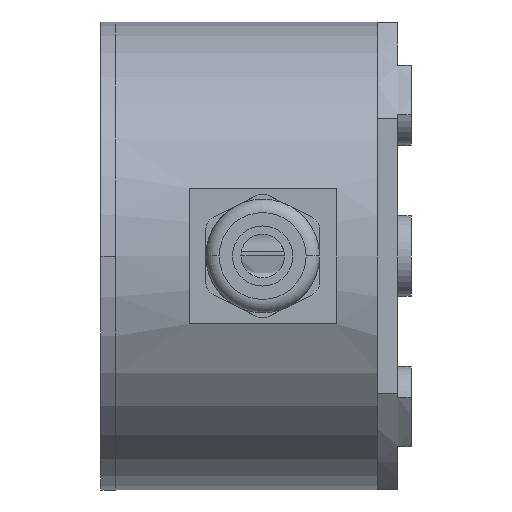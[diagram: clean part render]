
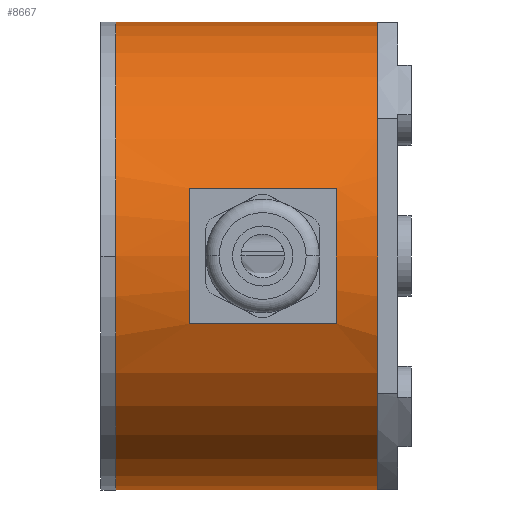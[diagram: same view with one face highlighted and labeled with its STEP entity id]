
A CAD part, left-side view. The second image highlights one B-rep face of the part: STEP entity #8667.
In plain terms, the highlighted cylindrical face has radius 35 mm (diameter 70 mm), a partial arc.
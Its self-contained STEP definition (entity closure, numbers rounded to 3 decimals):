
#6519 = DIRECTION ( 'NONE',  ( 0., -1., 0. ) ) ;
#6520 = VECTOR ( 'NONE', #6519, 1000. ) ;
#6521 = CARTESIAN_POINT ( 'NONE',  ( 39.5, 42.2, 0. ) ) ;
#6522 = LINE ( 'NONE', #6521, #6520 ) ;
#6543 = DIRECTION ( 'NONE',  ( 0., 0., 1. ) ) ;
#6544 = DIRECTION ( 'NONE',  ( 0., 1., 0. ) ) ;
#6545 = CARTESIAN_POINT ( 'NONE',  ( 39.5, 3., -35. ) ) ;
#6546 = AXIS2_PLACEMENT_3D ( 'NONE', #6545, #6544, #6543 ) ;
#6547 = CIRCLE ( 'NONE', #6546, 35. ) ;
#6629 = DIRECTION ( 'NONE',  ( 0., 0., 1. ) ) ;
#6630 = DIRECTION ( 'NONE',  ( 0., 1., 0. ) ) ;
#6631 = AXIS2_PLACEMENT_3D ( 'NONE', #6636, #6630, #6629 ) ;
#6632 = CIRCLE ( 'NONE', #6631, 35. ) ;
#6633 = DIRECTION ( 'NONE',  ( 0., 0., -1. ) ) ;
#6634 = DIRECTION ( 'NONE',  ( 0., -1., 0. ) ) ;
#6635 = AXIS2_PLACEMENT_3D ( 'NONE', #6645, #6634, #6633 ) ;
#6636 = CARTESIAN_POINT ( 'NONE',  ( 39.5, 42.2, -35. ) ) ;
#6637 = CYLINDRICAL_SURFACE ( 'NONE', #6635, 35. ) ;
#6638 = FACE_BOUND ( 'NONE', #8934, .T. ) ;
#6639 = FACE_OUTER_BOUND ( 'NONE', #8585, .T. ) ;
#6645 = CARTESIAN_POINT ( 'NONE',  ( 39.5, 42.2, -35. ) ) ;
#6683 = CARTESIAN_POINT ( 'NONE',  ( 39.5, 3., -70. ) ) ;
#6731 = CARTESIAN_POINT ( 'NONE',  ( 39.5, 42.2, -70. ) ) ;
#6732 = DIRECTION ( 'NONE',  ( 0., -1., 0. ) ) ;
#6733 = VECTOR ( 'NONE', #6732, 1000. ) ;
#6734 = CARTESIAN_POINT ( 'NONE',  ( 39.5, 42.2, -70. ) ) ;
#6735 = LINE ( 'NONE', #6734, #6733 ) ;
#6745 = CARTESIAN_POINT ( 'NONE',  ( 39.5, 3., 0. ) ) ;
#6746 = CARTESIAN_POINT ( 'NONE',  ( 39.5, 42.2, 0. ) ) ;
#6953 = DIRECTION ( 'NONE',  ( 0., 0., 1. ) ) ;
#6954 = DIRECTION ( 'NONE',  ( 0., 1., 0. ) ) ;
#6955 = CARTESIAN_POINT ( 'NONE',  ( 39.5, 31.2, -35. ) ) ;
#6956 = AXIS2_PLACEMENT_3D ( 'NONE', #6955, #6954, #6953 ) ;
#6957 = CIRCLE ( 'NONE', #6956, 35. ) ;
#6958 = DIRECTION ( 'NONE',  ( 0., -1., 0. ) ) ;
#6959 = VECTOR ( 'NONE', #6958, 1000. ) ;
#6960 = CARTESIAN_POINT ( 'NONE',  ( 6., 42.2, -45.137 ) ) ;
#6961 = LINE ( 'NONE', #6960, #6959 ) ;
#6962 = CARTESIAN_POINT ( 'NONE',  ( 6., 31.2, -45.137 ) ) ;
#6980 = DIRECTION ( 'NONE',  ( 0., 0., -1. ) ) ;
#6981 = DIRECTION ( 'NONE',  ( 0., -1., 0. ) ) ;
#6982 = CARTESIAN_POINT ( 'NONE',  ( 39.5, 9.2, -35. ) ) ;
#6983 = AXIS2_PLACEMENT_3D ( 'NONE', #6982, #6981, #6980 ) ;
#6984 = CIRCLE ( 'NONE', #6983, 35. ) ;
#6985 = CARTESIAN_POINT ( 'NONE',  ( 6., 9.2, -24.863 ) ) ;
#6986 = DIRECTION ( 'NONE',  ( 0., 1., 0. ) ) ;
#6987 = VECTOR ( 'NONE', #6986, 1000. ) ;
#6988 = CARTESIAN_POINT ( 'NONE',  ( 6., 42.2, -24.863 ) ) ;
#6989 = LINE ( 'NONE', #6988, #6987 ) ;
#6990 = CARTESIAN_POINT ( 'NONE',  ( 6., 31.2, -24.863 ) ) ;
#7024 = CARTESIAN_POINT ( 'NONE',  ( 6., 9.2, -45.137 ) ) ;
#8585 = EDGE_LOOP ( 'NONE', ( #8749, #8668, #8670, #8929 ) ) ;
#8598 = EDGE_CURVE ( 'NONE', #8712, #8713, #6522, .T. ) ;
#8620 = EDGE_CURVE ( 'NONE', #8678, #8713, #6547, .T. ) ;
#8667 = ADVANCED_FACE ( 'NONE', ( #6639, #6638 ), #6637, .T. ) ;
#8668 = ORIENTED_EDGE ( 'NONE', *, *, #8669, .F. ) ;
#8669 = EDGE_CURVE ( 'NONE', #8725, #8712, #6632, .T. ) ;
#8670 = ORIENTED_EDGE ( 'NONE', *, *, #8723, .T. ) ;
#8678 = VERTEX_POINT ( 'NONE', #6683 ) ;
#8712 = VERTEX_POINT ( 'NONE', #6746 ) ;
#8713 = VERTEX_POINT ( 'NONE', #6745 ) ;
#8723 = EDGE_CURVE ( 'NONE', #8725, #8678, #6735, .T. ) ;
#8725 = VERTEX_POINT ( 'NONE', #6731 ) ;
#8749 = ORIENTED_EDGE ( 'NONE', *, *, #8598, .F. ) ;
#8858 = VERTEX_POINT ( 'NONE', #6962 ) ;
#8859 = ORIENTED_EDGE ( 'NONE', *, *, #8860, .F. ) ;
#8860 = EDGE_CURVE ( 'NONE', #8858, #8892, #6961, .T. ) ;
#8861 = ORIENTED_EDGE ( 'NONE', *, *, #8862, .T. ) ;
#8862 = EDGE_CURVE ( 'NONE', #8858, #8873, #6957, .T. ) ;
#8873 = VERTEX_POINT ( 'NONE', #6990 ) ;
#8874 = ORIENTED_EDGE ( 'NONE', *, *, #8875, .F. ) ;
#8875 = EDGE_CURVE ( 'NONE', #8876, #8873, #6989, .T. ) ;
#8876 = VERTEX_POINT ( 'NONE', #6985 ) ;
#8877 = ORIENTED_EDGE ( 'NONE', *, *, #8878, .T. ) ;
#8878 = EDGE_CURVE ( 'NONE', #8876, #8892, #6984, .T. ) ;
#8892 = VERTEX_POINT ( 'NONE', #7024 ) ;
#8929 = ORIENTED_EDGE ( 'NONE', *, *, #8620, .T. ) ;
#8934 = EDGE_LOOP ( 'NONE', ( #8859, #8861, #8874, #8877 ) ) ;
